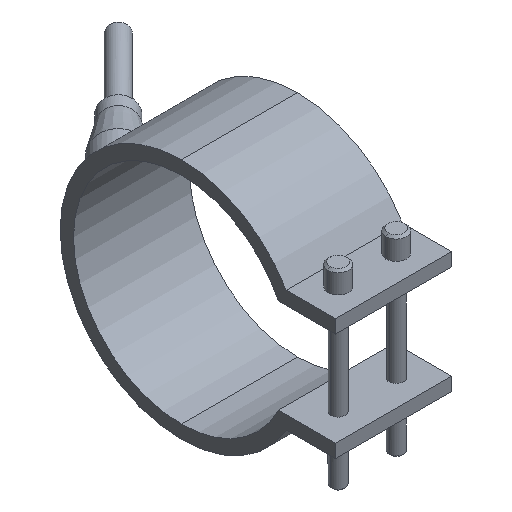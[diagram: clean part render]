
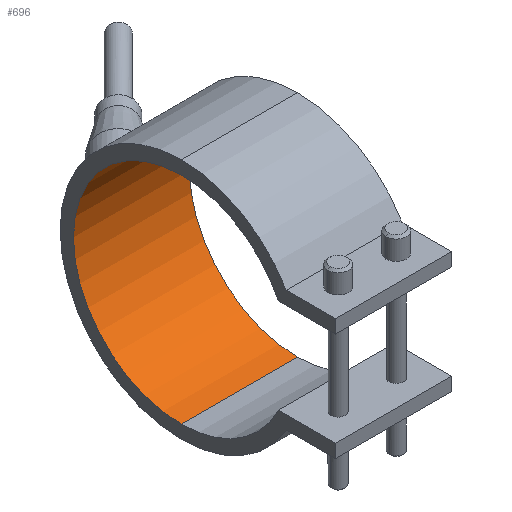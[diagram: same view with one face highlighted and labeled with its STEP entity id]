
A CAD part, isometric view. The second image highlights one B-rep face of the part: STEP entity #696.
In plain terms, the highlighted cylindrical face has radius 32.5 mm (diameter 65 mm), a partial arc.
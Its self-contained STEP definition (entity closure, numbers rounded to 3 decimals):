
#366=CARTESIAN_POINT('Vertex',(17.5,0.,32.5)) ;
#371=CARTESIAN_POINT('Axis2P3D Location',(17.5,0.,0.)) ;
#375=CARTESIAN_POINT('Vertex',(17.5,0.,-32.5)) ;
#482=CARTESIAN_POINT('Vertex',(-17.5,0.,-32.5)) ;
#485=CARTESIAN_POINT('Axis2P3D Location',(-17.5,0.,0.)) ;
#489=CARTESIAN_POINT('Vertex',(-17.5,0.,32.5)) ;
#668=CARTESIAN_POINT('Line Origine',(17.5,0.,32.5)) ;
#680=CARTESIAN_POINT('Axis2P3D Location',(17.5,0.,0.)) ;
#685=CARTESIAN_POINT('Line Origine',(17.5,0.,-32.5)) ;
#372=DIRECTION('Axis2P3D Direction',(1.,0.,0.)) ;
#486=DIRECTION('Axis2P3D Direction',(1.,0.,0.)) ;
#669=DIRECTION('Vector Direction',(1.,0.,0.)) ;
#681=DIRECTION('Axis2P3D Direction',(1.,0.,-0.)) ;
#682=DIRECTION('Axis2P3D XDirection',(0.,0.,-1.)) ;
#686=DIRECTION('Vector Direction',(1.,0.,0.)) ;
#373=AXIS2_PLACEMENT_3D('Circle Axis2P3D',#371,#372,$) ;
#487=AXIS2_PLACEMENT_3D('Circle Axis2P3D',#485,#486,$) ;
#683=AXIS2_PLACEMENT_3D('Cylinder Axis2P3D',#680,#681,#682) ;
#691=ORIENTED_EDGE('',*,*,#377,.T.) ;
#692=ORIENTED_EDGE('',*,*,#672,.T.) ;
#693=ORIENTED_EDGE('',*,*,#491,.F.) ;
#694=ORIENTED_EDGE('',*,*,#689,.T.) ;
#670=VECTOR('Line Direction',#669,1.) ;
#687=VECTOR('Line Direction',#686,1.) ;
#696=ADVANCED_FACE('29065035',(#695),#684,.F.) ;
#374=CIRCLE('generated circle',#373,32.5) ;
#488=CIRCLE('generated circle',#487,32.5) ;
#684=CYLINDRICAL_SURFACE('generated cylinder',#683,32.5) ;
#377=EDGE_CURVE('',#376,#367,#374,.T.) ;
#491=EDGE_CURVE('',#483,#490,#488,.T.) ;
#672=EDGE_CURVE('',#367,#490,#671,.F.) ;
#689=EDGE_CURVE('',#483,#376,#688,.T.) ;
#690=EDGE_LOOP('',(#691,#692,#693,#694)) ;
#695=FACE_OUTER_BOUND('',#690,.T.) ;
#671=LINE('Line',#668,#670) ;
#688=LINE('Line',#685,#687) ;
#367=VERTEX_POINT('',#366) ;
#376=VERTEX_POINT('',#375) ;
#483=VERTEX_POINT('',#482) ;
#490=VERTEX_POINT('',#489) ;
